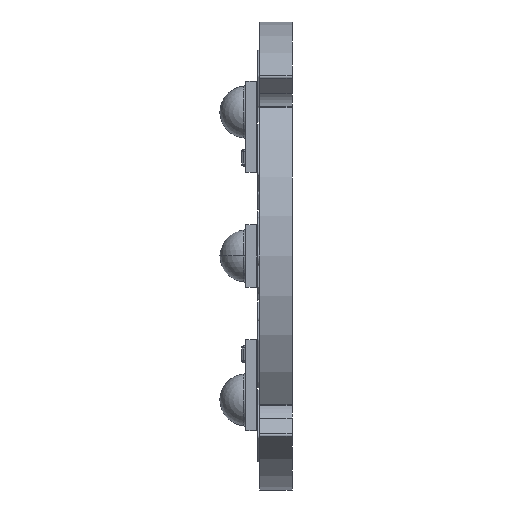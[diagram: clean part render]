
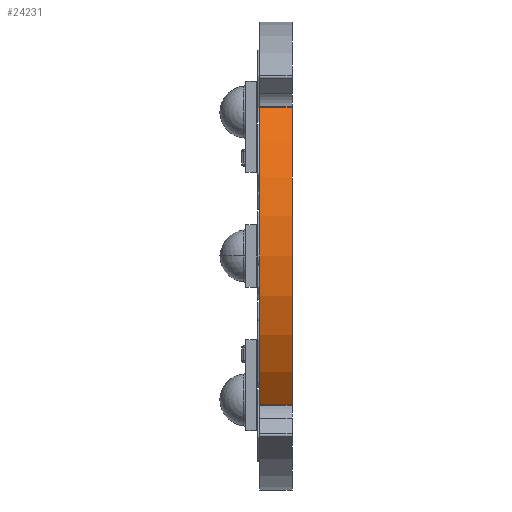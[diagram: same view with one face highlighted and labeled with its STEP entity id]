
A CAD part, left-side view. The second image highlights one B-rep face of the part: STEP entity #24231.
In plain terms, the highlighted cylindrical face has radius 11.5 mm (diameter 23 mm), a partial arc.
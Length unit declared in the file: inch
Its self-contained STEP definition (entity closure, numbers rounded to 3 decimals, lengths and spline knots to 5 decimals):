
#554 = AXIS2_PLACEMENT_3D ( 'NONE', #50583, #25051, #54868 ) ;
#3718 = CIRCLE ( 'NONE', #554, 0.45276 ) ;
#3861 = FACE_OUTER_BOUND ( 'NONE', #11533, .T. ) ;
#4012 = ORIENTED_EDGE ( 'NONE', *, *, #47244, .T. ) ;
#4212 = VECTOR ( 'NONE', #7526, 39.37008 ) ;
#5419 = CIRCLE ( 'NONE', #21287, 0.45276 ) ;
#5482 = VERTEX_POINT ( 'NONE', #23202 ) ;
#6144 = CARTESIAN_POINT ( 'NONE',  ( 0.4527, -0.06299, -0.45276 ) ) ;
#7526 = DIRECTION ( 'NONE',  ( 0., 1., 0. ) ) ;
#8537 = CYLINDRICAL_SURFACE ( 'NONE', #23002, 0.45276 ) ;
#8989 = CARTESIAN_POINT ( 'NONE',  ( 0.4527, -0.06299, -0.45276 ) ) ;
#10473 = DIRECTION ( 'NONE',  ( 0., 0., 1. ) ) ;
#10556 = CARTESIAN_POINT ( 'NONE',  ( 0.10315, 0., -0.74052 ) ) ;
#11533 = EDGE_LOOP ( 'NONE', ( #49751, #15888, #12262, #4012 ) ) ;
#12262 = ORIENTED_EDGE ( 'NONE', *, *, #44578, .T. ) ;
#15888 = ORIENTED_EDGE ( 'NONE', *, *, #29170, .F. ) ;
#20107 = VECTOR ( 'NONE', #49871, 39.37008 ) ;
#21287 = AXIS2_PLACEMENT_3D ( 'NONE', #6144, #35981, #10473 ) ;
#22986 = VERTEX_POINT ( 'NONE', #40126 ) ;
#23002 = AXIS2_PLACEMENT_3D ( 'NONE', #8989, #30205, #30394 ) ;
#23202 = CARTESIAN_POINT ( 'NONE',  ( 0.10315, -0.06299, -0.16499 ) ) ;
#24231 = ADVANCED_FACE ( 'NONE', ( #3861 ), #8537, .T. ) ;
#24350 = CARTESIAN_POINT ( 'NONE',  ( 0.10315, -0.06299, -0.16499 ) ) ;
#25007 = EDGE_CURVE ( 'NONE', #26953, #22986, #3718, .T. ) ;
#25051 = DIRECTION ( 'NONE',  ( 0., 1., 0. ) ) ;
#26897 = VERTEX_POINT ( 'NONE', #27131 ) ;
#26953 = VERTEX_POINT ( 'NONE', #10556 ) ;
#27131 = CARTESIAN_POINT ( 'NONE',  ( 0.10315, -0.06299, -0.74052 ) ) ;
#29170 = EDGE_CURVE ( 'NONE', #26897, #26953, #48248, .T. ) ;
#30205 = DIRECTION ( 'NONE',  ( 0., 1., 0. ) ) ;
#30394 = DIRECTION ( 'NONE',  ( 0., 0., 1. ) ) ;
#35981 = DIRECTION ( 'NONE',  ( 0., 1., 0. ) ) ;
#37377 = CARTESIAN_POINT ( 'NONE',  ( 0.10315, -0.06299, -0.74052 ) ) ;
#40126 = CARTESIAN_POINT ( 'NONE',  ( 0.10315, 0., -0.16499 ) ) ;
#44578 = EDGE_CURVE ( 'NONE', #26897, #5482, #5419, .T. ) ;
#47244 = EDGE_CURVE ( 'NONE', #5482, #22986, #54142, .T. ) ;
#48248 = LINE ( 'NONE', #37377, #4212 ) ;
#49751 = ORIENTED_EDGE ( 'NONE', *, *, #25007, .F. ) ;
#49871 = DIRECTION ( 'NONE',  ( 0., 1., 0. ) ) ;
#50583 = CARTESIAN_POINT ( 'NONE',  ( 0.4527, 0., -0.45276 ) ) ;
#54142 = LINE ( 'NONE', #24350, #20107 ) ;
#54868 = DIRECTION ( 'NONE',  ( 0., 0., 1. ) ) ;
